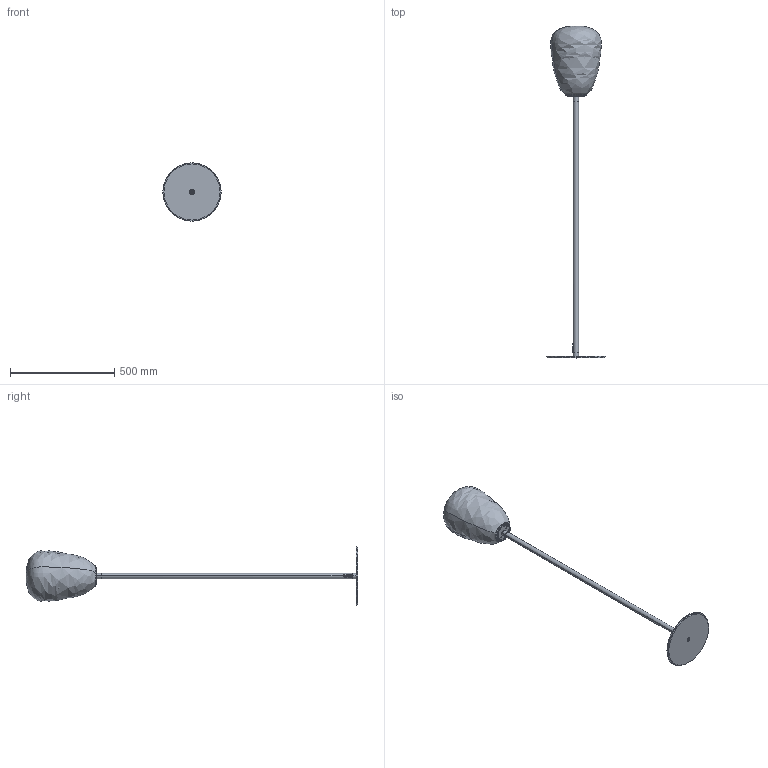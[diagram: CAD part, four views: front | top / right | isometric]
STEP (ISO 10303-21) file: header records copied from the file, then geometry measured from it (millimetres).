
FILE_DESCRIPTION (( 'STEP AP214' ), '1' );
FILE_NAME ('244_1_F_ME_3D.STEP', '2021-04-29T10:20:57', ( '' ), ( '' ), 'SwSTEP 2.0', 'SolidWorks 2021', '' );
FILE_SCHEMA (( 'AUTOMOTIVE_DESIGN' ));
Length unit declared in the file: millimetre
Products named in the file (1): 244_1_F_ME_3D
Bounding box: 280 x 1595.7 x 280 mm (x, y, z)
Volume: 1861125.2 mm3; surface area: 928089.5 mm2
Topology: 7 solids, 7 shells, 313 faces, 788 edges, 479 vertices
Faces by surface type: cylinder 144, plane 81, torus 36, bspline 32, sphere 14, cone 6
Entity records: 14624 total; most frequent: CARTESIAN_POINT 3867, ORIENTED_EDGE 1544, DIRECTION 1506, EDGE_CURVE 772, AXIS2_PLACEMENT_3D 603, VERTEX_POINT 479, EDGE_LOOP 355, UNCERTAINTY_MEASURE_WITH_UNIT 322
